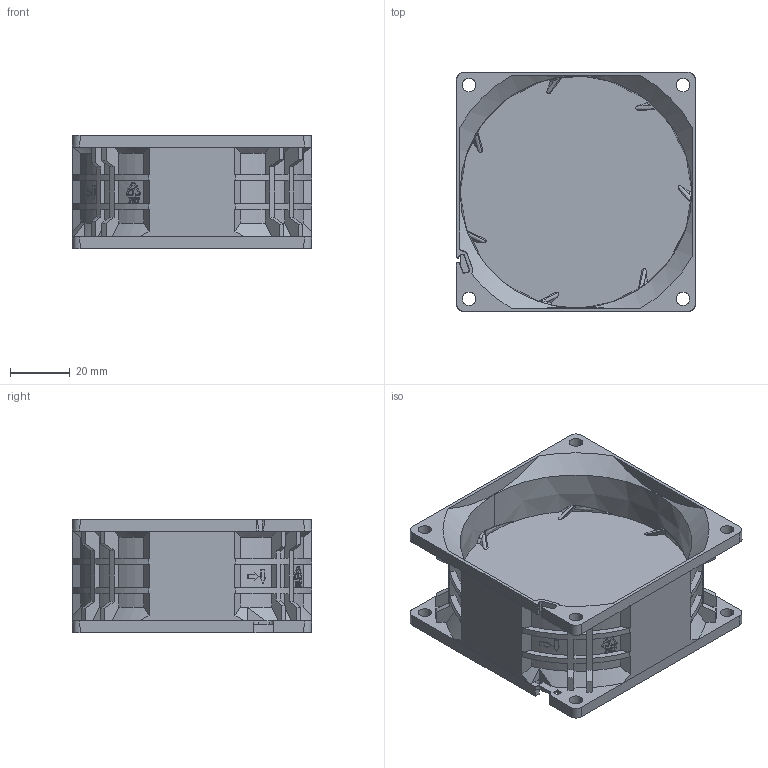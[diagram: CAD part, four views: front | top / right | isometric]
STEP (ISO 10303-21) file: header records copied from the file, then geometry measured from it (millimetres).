
FILE_DESCRIPTION (( 'STEP AP203' ), '1' );
FILE_NAME ('8038B-外框.stp', '2025-09-16T02:56:12', ( '' ), ( '' ), 'SwSTEP 2.0', 'SolidWorks 2024', '' );
FILE_SCHEMA (( 'CONFIG_CONTROL_DESIGN' ));
Length unit declared in the file: millimetre
Products named in the file (1): 8038B-外框
Bounding box: 80 x 80 x 38 mm (x, y, z)
Volume: 111149.7 mm3; surface area: 35180.8 mm2
Topology: 1 solids, 1 shells, 591 faces, 1676 edges, 1100 vertices
Faces by surface type: plane 248, cylinder 194, bspline 83, cone 66
Entity records: 26325 total; most frequent: CARTESIAN_POINT 12488, ORIENTED_EDGE 3350, DIRECTION 2216, EDGE_CURVE 1675, VERTEX_POINT 1100, AXIS2_PLACEMENT_3D 770, LINE 676, VECTOR 676
